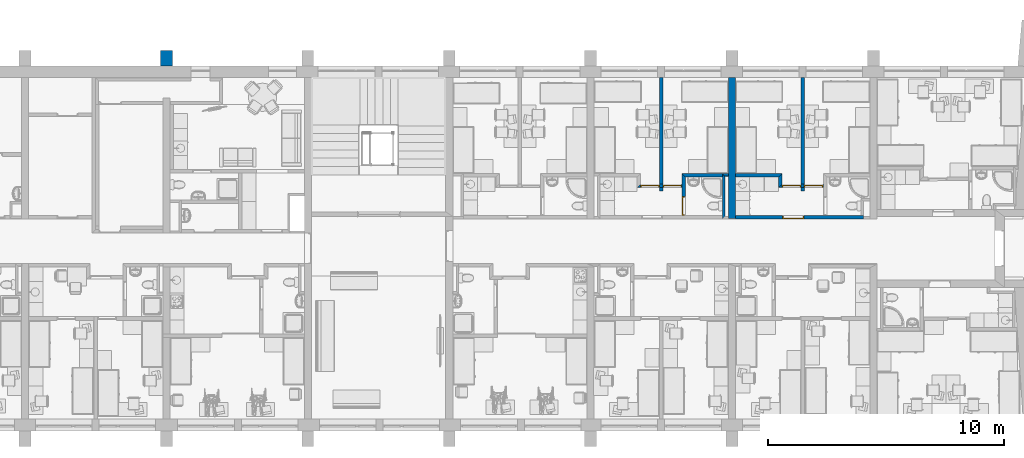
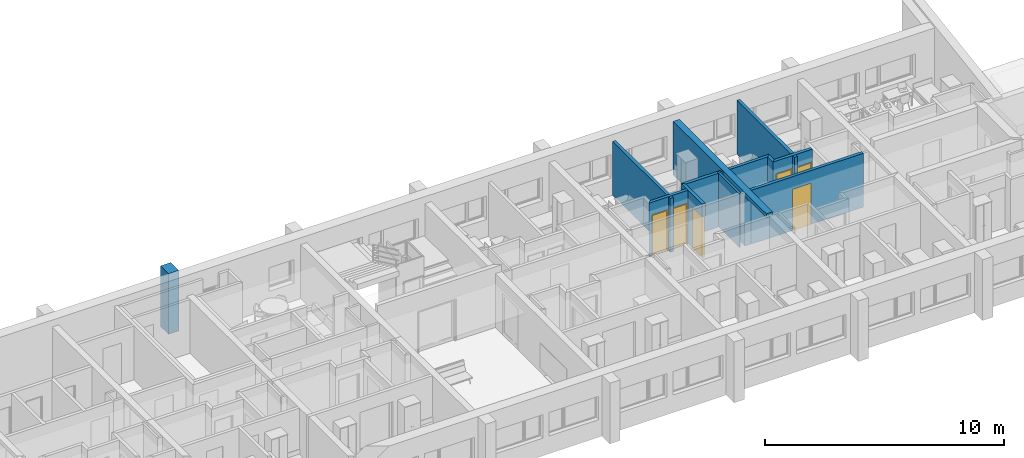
# One storey, part 17 of 172: 13 walls, 6 doors, 7 openings.
"""IFC2X3 building model written with IfcOpenShell, lengths in millimetres."""

from ifc_helpers import new_model, entity, si_unit, converted_unit, money_unit, direction, frame, origin_with_axes, place, context, subcontext, project, spatial, polyline, outline, extrude, faceted_brep, source, transform, mapped, material, material_list, layer, layer_set, layer_usage, type_object, element, fill, save


model = new_model("IFC2X3")

# Units and contexts
model_context = context("Model", 3, precision=1e-05, world=origin_with_axes(), true_north=direction((0.0, 1.0)))
body_context = subcontext(model_context, "Body", "Model", "MODEL_VIEW")
ifc_project = project(units=[si_unit("LENGTHUNIT", "METRE", prefix="MILLI"), si_unit("AREAUNIT", "SQUARE_METRE"), si_unit("VOLUMEUNIT", "CUBIC_METRE"), converted_unit("PLANEANGLEUNIT", "DEGREE", entity("IfcPlaneAngleMeasure", 0.0174532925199), si_unit("PLANEANGLEUNIT", "RADIAN"), dimensions=[0, 0, 0, 0, 0, 0, 0]), si_unit("SOLIDANGLEUNIT", "STERADIAN"), money_unit("USD"), converted_unit("TIMEUNIT", "Year", entity("IfcTimeMeasure", 31556926.0), si_unit("TIMEUNIT", "SECOND"), dimensions=[0, 0, 0, 0, 0, 0, 0]), si_unit("MASSUNIT", "GRAM"), si_unit("THERMODYNAMICTEMPERATUREUNIT", "DEGREE_CELSIUS"), si_unit("LUMINOUSINTENSITYUNIT", "LUMEN")], contexts=[model_context])

# Site, building, storey
site_placement = place(None, origin_with_axes())
site = spatial("IfcSite", under=ifc_project, at=site_placement, Name="Site", CompositionType="ELEMENT")
building_placement = place(site_placement, origin_with_axes())
building = spatial("IfcBuilding", under=site, at=building_placement, Name="Building", CompositionType="ELEMENT")
storey_placement = place(building_placement, frame((0.0, 0.0, 3200.0), z_axis=(0.0, 0.0, 1.0), x_axis=(1.0, 0.0, 0.0)))
storey = spatial("IfcBuildingStorey", under=building, at=storey_placement, Name="3KORRUS", CompositionType="ELEMENT", Elevation=3200.0)

# Wall
ifc_material_1 = material(Name="Olemasolevad seinad tellis, uus viimistlus")
ifc_layer_1 = layer(ifc_material_1, 500.0, ventilated="UNKNOWN")
ifc_layer_set_1 = layer_set([ifc_layer_1], Name="Olemasolevad seinad tellis, uus viimistlus 500")
ifc_layer_usage_1 = layer_usage(ifc_layer_set_1, "AXIS2", "POSITIVE", -100.0)
wall_type_1 = type_object("IfcWallType", Name="Olemasolevad seinad tellis, uus viimistlus 500", PredefinedType="NOTDEFINED")
wall_1_placement = place(storey_placement, frame((-17990.2967033, -4639.6041088, 0.0), z_axis=(0.0, 0.0, 1.0), x_axis=(0.0, 1.0, 0.0)))
element("IfcWallStandardCase", 1, at=wall_1_placement, inside=storey, type_object=wall_type_1, material=ifc_layer_usage_1, Name="VS1", ObjectType="VS1", context=body_context, shape_type="SweptSolid", body=[
    extrude(outline(polyline([(0.0, -100.0), (657.402041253, -100.0), (657.402041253, 400.0), (0.0, 400.0), (0.0, -100.0)])), origin_with_axes(), (0.0, 0.0, 1.0), 3100.0),
])

# Wall, opening, door
ifc_material_2 = material(Name="UmbKipsplaat")
ifc_layer_2 = layer(ifc_material_2, 13.0, ventilated="UNKNOWN")
ifc_layer_3 = layer(ifc_material_2, 13.0, ventilated="UNKNOWN")
ifc_material_3 = material(Name="SOOJUSTUS MINERAALVILL")
ifc_layer_4 = layer(ifc_material_3, 98.0, ventilated="UNKNOWN")
ifc_layer_5 = layer(ifc_material_2, 13.0, ventilated="UNKNOWN")
ifc_layer_6 = layer(ifc_material_2, 13.0, ventilated="UNKNOWN")
ifc_layer_set_2 = layer_set([ifc_layer_2, ifc_layer_3, ifc_layer_4, ifc_layer_5, ifc_layer_6], Name="kipssein150")
ifc_layer_usage_2 = layer_usage(ifc_layer_set_2, "AXIS2", "POSITIVE", 0.0)
wall_type_2 = type_object("IfcWallType", Name="kipssein150 150", PredefinedType="NOTDEFINED")
wall_2_placement = place(storey_placement, frame((3734.70329669, -9367.37850445, 0.0), z_axis=(0.0, 0.0, 1.0), x_axis=(0.0, -1.0, 0.0)))
wall_2 = element("IfcWallStandardCase", 2, at=wall_2_placement, inside=storey, type_object=wall_type_2, material=ifc_layer_usage_2, Name="SS1", ObjectType="SS1", context=body_context, shape_type="SweptSolid", body=[
    extrude(outline(polyline([(-150.0, 0.0), (1619.22560435, 0.0), (1619.22560435, 150.0), (0.0, 150.0), (-150.0, 0.0)])), origin_with_axes(), (0.0, 0.0, 1.0), 2750.0),
])
opening_1_placement = place(wall_2_placement, frame((1219.22560435, 0.0, 0.0), z_axis=(0.0, 0.0, 1.0), x_axis=(1.0, 0.0, 0.0)))
opening_1 = element("IfcOpeningElement", 3, at=opening_1_placement, cuts=wall_2, Name="SU3-3", context=body_context, shape_type="SweptSolid", body=[
    extrude(outline(polyline([(-400.0, -2100.0), (400.0, -2100.0), (400.0, 0.0), (-400.0, 0.0), (-400.0, -2100.0)])), frame((0.0, 150.0, 0.0), z_axis=(0.0, 1.0, 0.0), x_axis=(1.0, 0.0, 0.0)), (0.0, 0.0, -1.0), 450.0),
])
ifc_material_4 = material(Name="Background")
ifc_material_list = material_list([ifc_material_4])
door_style_1 = type_object("IfcDoorStyle", Name="Door 19", ConstructionType="NOTDEFINED", OperationType="SINGLE_SWING_LEFT", ParameterTakesPrecedence=False, Sizeable=False)
shared_shape_1 = source(origin_with_axes(), body_context, "Body", "Brep", [
    faceted_brep([(360.0, -40.0, 0.0), (360.0, -115.0, 0.0), (360.0, -115.0, 2060.0), (360.0, -40.0, 2060.0), (372.0, -40.0, 0.0), (372.0, 0.0, 0.0), (400.0, 0.0, 0.0), (400.0, -115.0, 0.0), (400.0, -115.0, 2060.0), (372.0, -40.0, 2060.0), (400.0, 0.0, 2060.0), (372.0, 0.0, 2060.0)], [[[0, 1, 2, 3]], [[4, 5, 6, 7, 1, 0]], [[2, 1, 7, 8]], [[9, 3, 2, 8, 10, 11]], [[9, 4, 0, 3]], [[11, 5, 4, 9]], [[11, 10, 6, 5]], [[7, 6, 10, 8]]]),
    faceted_brep([(-372.0, -40.0, 2060.0), (-372.0, 0.0, 2060.0), (-400.0, 0.0, 2060.0), (-400.0, -115.0, 2060.0), (-360.0, -115.0, 2060.0), (-360.0, -40.0, 2060.0), (-372.0, -40.0, 0.0), (-372.0, 0.0, 0.0), (-400.0, 0.0, 0.0), (-400.0, -115.0, 0.0), (-360.0, -115.0, 0.0), (-360.0, -40.0, 0.0)], [[[0, 1, 2, 3, 4, 5]], [[0, 6, 7, 1]], [[7, 8, 2, 1]], [[3, 2, 8, 9]], [[4, 3, 9, 10]], [[5, 4, 10, 11]], [[5, 11, 6, 0]], [[6, 11, 10, 9, 8, 7]]]),
    faceted_brep([(372.0, 0.0, 2072.0), (-372.0, 0.0, 2072.0), (-372.0, 0.0, 2060.0), (-400.0, 0.0, 2060.0), (-400.0, 0.0, 2100.0), (400.0, 0.0, 2100.0), (400.0, 0.0, 2060.0), (372.0, 0.0, 2060.0), (372.0, -40.0, 2072.0), (-372.0, -40.0, 2072.0), (-372.0, -40.0, 2060.0), (-360.0, -40.0, 2060.0), (-360.0, -115.0, 2060.0), (-400.0, -115.0, 2060.0), (-400.0, -115.0, 2100.0), (400.0, -115.0, 2100.0), (400.0, -115.0, 2060.0), (372.0, -40.0, 2060.0), (360.0, -115.0, 2060.0), (360.0, -40.0, 2060.0)], [[[0, 1, 2, 3, 4, 5, 6, 7]], [[0, 8, 9, 1]], [[1, 9, 10, 2]], [[10, 11, 12, 13, 3, 2]], [[14, 4, 3, 13]], [[15, 5, 4, 14]], [[16, 6, 5, 15]], [[17, 7, 6, 16, 18, 19]], [[7, 17, 8, 0]], [[10, 9, 8, 17, 19, 11]], [[19, 18, 12, 11]], [[13, 12, 18, 16, 15, 14]]]),
    faceted_brep([(-372.0, 0.0, 0.0), (372.0, 0.0, 0.0), (372.0, -40.0, 0.0), (-372.0, -40.0, 0.0), (-372.0, 0.0, 2072.0), (372.0, 0.0, 2072.0), (372.0, -40.0, 2072.0), (-372.0, -40.0, 2072.0)], [[[0, 1, 2, 3]], [[0, 4, 5, 1]], [[1, 5, 6, 2]], [[3, 2, 6, 7]], [[4, 0, 3, 7]], [[5, 4, 7, 6]]]),
])
door_1_placement = place(opening_1_placement, frame((400.0, 0.0, 0.0), z_axis=(0.0, 0.0, 1.0), x_axis=(-1.0, 0.0, 0.0)))
door_1 = element("IfcDoor", 4, at=door_1_placement, inside=storey, type_object=door_style_1, material=ifc_material_list, Name="SU3-3", ObjectType="WC-uks", OverallHeight=2100.0, OverallWidth=800.0, context=body_context, shape_type="MappedRepresentation", body=[
    mapped(shared_shape_1, transform((400.0, 0.0, 0.0))),
])
fill(opening_1, door_1)

# Wall
ifc_layer_usage_3 = layer_usage(ifc_layer_set_2, "AXIS2", "POSITIVE", 0.0)
wall_3_placement = place(storey_placement, frame((2784.2564771, -5039.6041088, 0.0), z_axis=(0.0, 0.0, 1.0), x_axis=(0.0, -1.0, 0.0)))
element("IfcWallStandardCase", 5, at=wall_3_placement, inside=storey, type_object=wall_type_2, material=ifc_layer_usage_3, Name="SS1", ObjectType="SS1", context=body_context, shape_type="SweptSolid", body=[
    extrude(outline(polyline([(100.0, 0.0), (4917.29002979, 0.0), (4917.29002979, 150.0), (100.0, 150.0), (100.0, 0.0)])), origin_with_axes(), (0.0, 0.0, 1.0), 2750.0),
])

# Wall, openings, doors
ifc_layer_usage_4 = layer_usage(ifc_layer_set_2, "AXIS2", "POSITIVE", 0.0)
wall_4_placement = place(storey_placement, frame((1984.2564771, -9806.89413859, 0.0), z_axis=(0.0, 0.0, 1.0), x_axis=(1.0, 0.0, 0.0)))
wall_4 = element("IfcWallStandardCase", 6, at=wall_4_placement, inside=storey, type_object=wall_type_2, material=ifc_layer_usage_4, Name="SS1", ObjectType="SS1", context=body_context, shape_type="SweptSolid", body=[
    extrude(outline(polyline([(-150.0, 0.0), (1750.44681959, 0.0), (1750.44681959, 150.0), (0.0, 150.0), (-150.0, 0.0)])), origin_with_axes(), (0.0, 0.0, 1.0), 2750.0),
])
opening_2_placement = place(wall_4_placement, frame((1341.45577623, 0.0, 0.0), z_axis=(0.0, 0.0, 1.0), x_axis=(1.0, 0.0, 0.0)))
opening_2 = element("IfcOpeningElement", 7, at=opening_2_placement, cuts=wall_4, Name="SU3-5", context=body_context, shape_type="SweptSolid", body=[
    extrude(outline(polyline([(-400.0, 0.0), (400.0, 0.0), (400.0, 2100.0), (-400.0, 2100.0), (-400.0, 0.0)])), frame((0.0, 150.0, 0.0), z_axis=(0.0, 1.0, 0.0), x_axis=(-1.0, 0.0, 0.0)), (0.0, 0.0, -1.0), 450.0),
])
opening_3_placement = place(wall_4_placement, frame((400.0, 0.0, 0.0), z_axis=(0.0, 0.0, 1.0), x_axis=(1.0, 0.0, 0.0)))
opening_3 = element("IfcOpeningElement", 8, at=opening_3_placement, cuts=wall_4, Name="SU3-4", context=body_context, shape_type="SweptSolid", body=[
    extrude(outline(polyline([(-400.0, 0.0), (400.0, 0.0), (400.0, 2100.0), (-400.0, 2100.0), (-400.0, 0.0)])), frame((0.0, 150.0, 0.0), z_axis=(0.0, -1.0, 0.0), x_axis=(1.0, 0.0, 0.0)), (0.0, 0.0, 1.0), 450.0),
])
door_style_2 = type_object("IfcDoorStyle", Name="Door 19", ConstructionType="NOTDEFINED", OperationType="SINGLE_SWING_LEFT", ParameterTakesPrecedence=False, Sizeable=False)
shared_shape_2 = source(origin_with_axes(), body_context, "Body", "Brep", [
    faceted_brep([(360.0, -75.0, 0.0), (360.0, -150.0, 0.0), (360.0, -150.0, 2060.0), (360.0, -75.0, 2060.0), (372.0, -75.0, 0.0), (372.0, -35.0, 0.0), (400.0, -35.0, 0.0), (400.0, -150.0, 0.0), (400.0, -150.0, 2060.0), (372.0, -75.0, 2060.0), (400.0, -35.0, 2060.0), (372.0, -35.0, 2060.0)], [[[0, 1, 2, 3]], [[4, 5, 6, 7, 1, 0]], [[2, 1, 7, 8]], [[9, 3, 2, 8, 10, 11]], [[9, 4, 0, 3]], [[11, 5, 4, 9]], [[11, 10, 6, 5]], [[7, 6, 10, 8]]]),
    faceted_brep([(-372.0, -75.0, 2060.0), (-372.0, -35.0, 2060.0), (-400.0, -35.0, 2060.0), (-400.0, -150.0, 2060.0), (-360.0, -150.0, 2060.0), (-360.0, -75.0, 2060.0), (-372.0, -75.0, 0.0), (-372.0, -35.0, 0.0), (-400.0, -35.0, 0.0), (-400.0, -150.0, 0.0), (-360.0, -150.0, 0.0), (-360.0, -75.0, 0.0)], [[[0, 1, 2, 3, 4, 5]], [[0, 6, 7, 1]], [[7, 8, 2, 1]], [[3, 2, 8, 9]], [[4, 3, 9, 10]], [[5, 4, 10, 11]], [[5, 11, 6, 0]], [[6, 11, 10, 9, 8, 7]]]),
    faceted_brep([(372.0, -35.0, 2072.0), (-372.0, -35.0, 2072.0), (-372.0, -35.0, 2060.0), (-400.0, -35.0, 2060.0), (-400.0, -35.0, 2100.0), (400.0, -35.0, 2100.0), (400.0, -35.0, 2060.0), (372.0, -35.0, 2060.0), (372.0, -75.0, 2072.0), (-372.0, -75.0, 2072.0), (-372.0, -75.0, 2060.0), (-360.0, -75.0, 2060.0), (-360.0, -150.0, 2060.0), (-400.0, -150.0, 2060.0), (-400.0, -150.0, 2100.0), (400.0, -150.0, 2100.0), (400.0, -150.0, 2060.0), (372.0, -75.0, 2060.0), (360.0, -150.0, 2060.0), (360.0, -75.0, 2060.0)], [[[0, 1, 2, 3, 4, 5, 6, 7]], [[0, 8, 9, 1]], [[1, 9, 10, 2]], [[10, 11, 12, 13, 3, 2]], [[14, 4, 3, 13]], [[15, 5, 4, 14]], [[16, 6, 5, 15]], [[17, 7, 6, 16, 18, 19]], [[7, 17, 8, 0]], [[10, 9, 8, 17, 19, 11]], [[19, 18, 12, 11]], [[13, 12, 18, 16, 15, 14]]]),
    faceted_brep([(-372.0, -35.0, 0.0), (372.0, -35.0, 0.0), (372.0, -75.0, 0.0), (-372.0, -75.0, 0.0), (-372.0, -35.0, 2072.0), (372.0, -35.0, 2072.0), (372.0, -75.0, 2072.0), (-372.0, -75.0, 2072.0)], [[[0, 1, 2, 3]], [[0, 4, 5, 1]], [[1, 5, 6, 2]], [[3, 2, 6, 7]], [[4, 0, 3, 7]], [[5, 4, 7, 6]]]),
])
door_2_placement = place(opening_2_placement, frame((-400.0, 0.0, 0.0), z_axis=(0.0, 0.0, 1.0), x_axis=(1.0, 0.0, 0.0)))
door_2 = element("IfcDoor", 9, at=door_2_placement, inside=storey, type_object=door_style_2, material=ifc_material_list, Name="SU3-5", ObjectType="Toa uks", OverallHeight=2100.0, OverallWidth=800.0, context=body_context, shape_type="MappedRepresentation", body=[
    mapped(shared_shape_2, transform((400.0, 150.0, 0.0))),
])
fill(opening_2, door_2)
door_style_3 = type_object("IfcDoorStyle", Name="Door 19", ConstructionType="NOTDEFINED", OperationType="SINGLE_SWING_RIGHT", ParameterTakesPrecedence=False, Sizeable=False)
shared_shape_3 = source(origin_with_axes(), body_context, "Body", "Brep", [
    faceted_brep([(-360.0, -75.0, 0.0), (-360.0, -75.0, 2060.0), (-360.0, -150.0, 2060.0), (-360.0, -150.0, 0.0), (-372.0, -75.0, 2060.0), (-372.0, -75.0, 0.0), (-372.0, -35.0, 2060.0), (-400.0, -35.0, 2060.0), (-400.0, -150.0, 2060.0), (-400.0, -150.0, 0.0), (-400.0, -35.0, 0.0), (-372.0, -35.0, 0.0)], [[[0, 1, 2, 3]], [[4, 1, 0, 5]], [[4, 6, 7, 8, 2, 1]], [[2, 8, 9, 3]], [[5, 0, 3, 9, 10, 11]], [[6, 4, 5, 11]], [[6, 11, 10, 7]], [[9, 8, 7, 10]]]),
    faceted_brep([(372.0, -75.0, 2060.0), (360.0, -75.0, 2060.0), (360.0, -150.0, 2060.0), (400.0, -150.0, 2060.0), (400.0, -35.0, 2060.0), (372.0, -35.0, 2060.0), (372.0, -75.0, 0.0), (360.0, -75.0, 0.0), (360.0, -150.0, 0.0), (400.0, -150.0, 0.0), (400.0, -35.0, 0.0), (372.0, -35.0, 0.0)], [[[0, 1, 2, 3, 4, 5]], [[1, 0, 6, 7]], [[1, 7, 8, 2]], [[2, 8, 9, 3]], [[3, 9, 10, 4]], [[11, 5, 4, 10]], [[0, 5, 11, 6]], [[6, 11, 10, 9, 8, 7]]]),
    faceted_brep([(-372.0, -35.0, 2072.0), (-372.0, -35.0, 2060.0), (-400.0, -35.0, 2060.0), (-400.0, -35.0, 2100.0), (400.0, -35.0, 2100.0), (400.0, -35.0, 2060.0), (372.0, -35.0, 2060.0), (372.0, -35.0, 2072.0), (-372.0, -75.0, 2072.0), (-372.0, -75.0, 2060.0), (-360.0, -75.0, 2060.0), (-360.0, -150.0, 2060.0), (-400.0, -150.0, 2060.0), (-400.0, -150.0, 2100.0), (400.0, -150.0, 2100.0), (400.0, -150.0, 2060.0), (372.0, -75.0, 2060.0), (360.0, -150.0, 2060.0), (360.0, -75.0, 2060.0), (372.0, -75.0, 2072.0)], [[[0, 1, 2, 3, 4, 5, 6, 7]], [[1, 0, 8, 9]], [[9, 10, 11, 12, 2, 1]], [[12, 13, 3, 2]], [[13, 14, 4, 3]], [[14, 15, 5, 4]], [[16, 6, 5, 15, 17, 18]], [[7, 6, 16, 19]], [[0, 7, 19, 8]], [[16, 18, 10, 9, 8, 19]], [[10, 18, 17, 11]], [[15, 14, 13, 12, 11, 17]]]),
    faceted_brep([(372.0, -35.0, 0.0), (372.0, -75.0, 0.0), (-372.0, -75.0, 0.0), (-372.0, -35.0, 0.0), (372.0, -35.0, 2072.0), (372.0, -75.0, 2072.0), (-372.0, -75.0, 2072.0), (-372.0, -35.0, 2072.0)], [[[0, 1, 2, 3]], [[4, 5, 1, 0]], [[1, 5, 6, 2]], [[3, 2, 6, 7]], [[0, 3, 7, 4]], [[7, 6, 5, 4]]]),
])
door_3_placement = place(opening_3_placement, frame((-400.0, 0.0, 0.0), z_axis=(0.0, 0.0, 1.0), x_axis=(1.0, 0.0, 0.0)))
door_3 = element("IfcDoor", 10, at=door_3_placement, inside=storey, type_object=door_style_3, material=ifc_material_list, Name="SU3-4", ObjectType="Toa uks", OverallHeight=2100.0, OverallWidth=800.0, context=body_context, shape_type="MappedRepresentation", body=[
    mapped(shared_shape_3, transform((400.0, 150.0, 0.0))),
])
fill(opening_3, door_3)

# Wall
ifc_layer_usage_5 = layer_usage(ifc_layer_set_2, "AXIS2", "POSITIVE", 0.0)
wall_5_placement = place(storey_placement, frame((3734.70329669, -9367.37850445, 0.0), z_axis=(0.0, 0.0, 1.0), x_axis=(1.0, 0.0, 0.0)))
element("IfcWallStandardCase", 11, at=wall_5_placement, inside=storey, type_object=wall_type_2, material=ifc_layer_usage_5, Name="SS1", ObjectType="SS1", context=body_context, shape_type="SweptSolid", body=[
    extrude(outline(polyline([(150.0, 0.0), (1725.0, 0.0), (1725.0, 150.0), (0.0, 150.0), (150.0, 0.0)])), origin_with_axes(), (0.0, 0.0, 1.0), 2750.0),
])

# Wall, opening, door
ifc_layer_usage_6 = layer_usage(ifc_layer_set_2, "AXIS2", "POSITIVE", 0.0)
wall_6_placement = place(storey_placement, frame((6009.70329669, -11136.6041088, 0.0), z_axis=(0.0, 0.0, 1.0), x_axis=(1.0, 0.0, 0.0)))
wall_6 = element("IfcWallStandardCase", 12, at=wall_6_placement, inside=storey, type_object=wall_type_2, material=ifc_layer_usage_6, Name="SS1", ObjectType="SS1", context=body_context, shape_type="SweptSolid", body=[
    extrude(outline(polyline([(0.0, 0.0), (5427.92293803, 0.0), (5427.92293803, 150.0), (0.0, 150.0), (0.0, 0.0)])), origin_with_axes(), (0.0, 0.0, 1.0), 2750.0),
])
opening_4_placement = place(wall_6_placement, frame((2449.55318041, 0.0, 0.0), z_axis=(0.0, 0.0, 1.0), x_axis=(1.0, 0.0, 0.0)))
opening_4 = element("IfcOpeningElement", 13, at=opening_4_placement, cuts=wall_6, Name="SU2-6", context=body_context, shape_type="SweptSolid", body=[
    extrude(outline(polyline([(-450.0, -2100.0), (450.0, -2100.0), (450.0, 0.0), (-450.0, 0.0), (-450.0, -2100.0)])), frame((0.0, 150.0, 0.0), z_axis=(0.0, 1.0, 0.0), x_axis=(1.0, 0.0, 0.0)), (0.0, 0.0, -1.0), 450.0),
])
shared_shape_4 = source(origin_with_axes(), body_context, "Body", "Brep", [
    faceted_brep([(410.0, -40.0, 0.0), (410.0, -115.0, 0.0), (410.0, -115.0, 2060.0), (410.0, -40.0, 2060.0), (422.0, -40.0, 0.0), (422.0, 0.0, 0.0), (450.0, 0.0, 0.0), (450.0, -115.0, 0.0), (450.0, -115.0, 2060.0), (422.0, -40.0, 2060.0), (450.0, 0.0, 2060.0), (422.0, 0.0, 2060.0)], [[[0, 1, 2, 3]], [[4, 5, 6, 7, 1, 0]], [[2, 1, 7, 8]], [[9, 3, 2, 8, 10, 11]], [[9, 4, 0, 3]], [[11, 5, 4, 9]], [[11, 10, 6, 5]], [[7, 6, 10, 8]]]),
    faceted_brep([(-422.0, -40.0, 2060.0), (-422.0, 0.0, 2060.0), (-450.0, 0.0, 2060.0), (-450.0, -115.0, 2060.0), (-410.0, -115.0, 2060.0), (-410.0, -40.0, 2060.0), (-422.0, -40.0, 0.0), (-422.0, 0.0, 0.0), (-450.0, 0.0, 0.0), (-450.0, -115.0, 0.0), (-410.0, -115.0, 0.0), (-410.0, -40.0, 0.0)], [[[0, 1, 2, 3, 4, 5]], [[0, 6, 7, 1]], [[7, 8, 2, 1]], [[3, 2, 8, 9]], [[4, 3, 9, 10]], [[5, 4, 10, 11]], [[5, 11, 6, 0]], [[6, 11, 10, 9, 8, 7]]]),
    faceted_brep([(422.0, 0.0, 2072.0), (-422.0, 0.0, 2072.0), (-422.0, 0.0, 2060.0), (-450.0, 0.0, 2060.0), (-450.0, 0.0, 2100.0), (450.0, 0.0, 2100.0), (450.0, 0.0, 2060.0), (422.0, 0.0, 2060.0), (422.0, -40.0, 2072.0), (-422.0, -40.0, 2072.0), (-422.0, -40.0, 2060.0), (-410.0, -40.0, 2060.0), (-410.0, -115.0, 2060.0), (-450.0, -115.0, 2060.0), (-450.0, -115.0, 2100.0), (450.0, -115.0, 2100.0), (450.0, -115.0, 2060.0), (422.0, -40.0, 2060.0), (410.0, -115.0, 2060.0), (410.0, -40.0, 2060.0)], [[[0, 1, 2, 3, 4, 5, 6, 7]], [[0, 8, 9, 1]], [[1, 9, 10, 2]], [[10, 11, 12, 13, 3, 2]], [[14, 4, 3, 13]], [[15, 5, 4, 14]], [[16, 6, 5, 15]], [[17, 7, 6, 16, 18, 19]], [[7, 17, 8, 0]], [[10, 9, 8, 17, 19, 11]], [[19, 18, 12, 11]], [[13, 12, 18, 16, 15, 14]]]),
    faceted_brep([(-422.0, 0.0, 0.0), (422.0, 0.0, 0.0), (422.0, -40.0, 0.0), (-422.0, -40.0, 0.0), (-422.0, 0.0, 2072.0), (422.0, 0.0, 2072.0), (422.0, -40.0, 2072.0), (-422.0, -40.0, 2072.0)], [[[0, 1, 2, 3]], [[0, 4, 5, 1]], [[1, 5, 6, 2]], [[3, 2, 6, 7]], [[4, 0, 3, 7]], [[5, 4, 7, 6]]]),
])
door_4_placement = place(opening_4_placement, frame((450.0, 0.0, 0.0), z_axis=(0.0, 0.0, 1.0), x_axis=(-1.0, 0.0, 0.0)))
door_4 = element("IfcDoor", 14, at=door_4_placement, inside=storey, type_object=door_style_1, material=ifc_material_list, Name="SU2-6", ObjectType="Korteri välisuks", OverallHeight=2100.0, OverallWidth=900.0, context=body_context, shape_type="MappedRepresentation", body=[
    mapped(shared_shape_4, transform((450.0, 0.0, 0.0))),
])
fill(opening_4, door_4)

# Wall
ifc_layer_usage_7 = layer_usage(ifc_layer_set_2, "AXIS2", "POSITIVE", 0.0)
wall_7_placement = place(storey_placement, frame((8784.2564771, -5039.6041088, 0.0), z_axis=(0.0, 0.0, 1.0), x_axis=(0.0, -1.0, 0.0)))
element("IfcWallStandardCase", 15, at=wall_7_placement, inside=storey, type_object=wall_type_2, material=ifc_layer_usage_7, Name="SS1", ObjectType="SS1", context=body_context, shape_type="SweptSolid", body=[
    extrude(outline(polyline([(100.0, 0.0), (4917.29002979, 0.0), (4917.29002979, 150.0), (100.0, 150.0), (100.0, 0.0)])), origin_with_axes(), (0.0, 0.0, 1.0), 2750.0),
])

# Wall, openings, doors
ifc_layer_usage_8 = layer_usage(ifc_layer_set_2, "AXIS2", "POSITIVE", 0.0)
wall_8_placement = place(storey_placement, frame((7984.2564771, -9806.89413859, 0.0), z_axis=(0.0, 0.0, 1.0), x_axis=(1.0, 0.0, 0.0)))
wall_8 = element("IfcWallStandardCase", 16, at=wall_8_placement, inside=storey, type_object=wall_type_2, material=ifc_layer_usage_8, Name="SS1", ObjectType="SS1", context=body_context, shape_type="SweptSolid", body=[
    extrude(outline(polyline([(-150.0, 0.0), (1750.44681959, 0.0), (1750.44681959, 150.0), (0.0, 150.0), (-150.0, 0.0)])), origin_with_axes(), (0.0, 0.0, 1.0), 2750.0),
])
opening_5_placement = place(wall_8_placement, frame((1341.45577623, 0.0, 0.0), z_axis=(0.0, 0.0, 1.0), x_axis=(1.0, 0.0, 0.0)))
opening_5 = element("IfcOpeningElement", 17, at=opening_5_placement, cuts=wall_8, Name="SU3-5", context=body_context, shape_type="SweptSolid", body=[
    extrude(outline(polyline([(-400.0, 0.0), (400.0, 0.0), (400.0, 2100.0), (-400.0, 2100.0), (-400.0, 0.0)])), frame((0.0, 150.0, 0.0), z_axis=(0.0, 1.0, 0.0), x_axis=(-1.0, 0.0, 0.0)), (0.0, 0.0, -1.0), 450.0),
])
opening_6_placement = place(wall_8_placement, frame((400.0, 0.0, 0.0), z_axis=(0.0, 0.0, 1.0), x_axis=(1.0, 0.0, 0.0)))
opening_6 = element("IfcOpeningElement", 18, at=opening_6_placement, cuts=wall_8, Name="SU3-4", context=body_context, shape_type="SweptSolid", body=[
    extrude(outline(polyline([(-400.0, 0.0), (400.0, 0.0), (400.0, 2100.0), (-400.0, 2100.0), (-400.0, 0.0)])), frame((0.0, 150.0, 0.0), z_axis=(0.0, -1.0, 0.0), x_axis=(1.0, 0.0, 0.0)), (0.0, 0.0, 1.0), 450.0),
])
door_5_placement = place(opening_5_placement, frame((-400.0, 0.0, 0.0), z_axis=(0.0, 0.0, 1.0), x_axis=(1.0, 0.0, 0.0)))
door_5 = element("IfcDoor", 19, at=door_5_placement, inside=storey, type_object=door_style_2, material=ifc_material_list, Name="SU3-5", ObjectType="Toa uks", OverallHeight=2100.0, OverallWidth=800.0, context=body_context, shape_type="MappedRepresentation", body=[
    mapped(shared_shape_2, transform((400.0, 150.0, 0.0))),
])
fill(opening_5, door_5)
door_6_placement = place(opening_6_placement, frame((-400.0, 0.0, 0.0), z_axis=(0.0, 0.0, 1.0), x_axis=(1.0, 0.0, 0.0)))
door_6 = element("IfcDoor", 20, at=door_6_placement, inside=storey, type_object=door_style_3, material=ifc_material_list, Name="SU3-4", ObjectType="Toa uks", OverallHeight=2100.0, OverallWidth=800.0, context=body_context, shape_type="MappedRepresentation", body=[
    mapped(shared_shape_3, transform((400.0, 150.0, 0.0))),
])
fill(opening_6, door_6)

# Walls
ifc_layer_usage_9 = layer_usage(ifc_layer_set_2, "AXIS2", "POSITIVE", -150.0)
wall_9_placement = place(storey_placement, frame((7984.2564771, -9366.37850445, 0.0), z_axis=(0.0, 0.0, 1.0), x_axis=(0.0, -1.0, 0.0)))
element("IfcWallStandardCase", 21, at=wall_9_placement, inside=storey, type_object=wall_type_2, material=ifc_layer_usage_9, Name="SS1", ObjectType="SS1", context=body_context, shape_type="SweptSolid", body=[
    extrude(outline(polyline([(0.0, -150.0), (440.51563414, -150.0), (290.51563414, 0.0), (-150.0, 0.0), (0.0, -150.0)])), origin_with_axes(), (0.0, 0.0, 1.0), 2750.0),
])
ifc_layer_usage_10 = layer_usage(ifc_layer_set_2, "AXIS2", "POSITIVE", -150.0)
wall_10_placement = place(storey_placement, frame((7984.2564771, -9366.37850445, 0.0), z_axis=(0.0, 0.0, 1.0), x_axis=(-1.0, 0.0, 0.0)))
element("IfcWallStandardCase", 22, at=wall_10_placement, inside=storey, type_object=wall_type_2, material=ifc_layer_usage_10, Name="SS1", ObjectType="SS1", context=body_context, shape_type="SweptSolid", body=[
    extrude(outline(polyline([(0.0, -150.0), (1974.55318041, -150.0), (1974.55318041, 0.0), (150.0, 0.0), (0.0, -150.0)])), origin_with_axes(), (0.0, 0.0, 1.0), 2750.0),
])

# Wall, opening
ifc_material_5 = material(Name="Olemasolevad seinad tellis, uus viimistlus")
ifc_layer_7 = layer(ifc_material_5, 300.0, ventilated="UNKNOWN")
ifc_layer_set_3 = layer_set([ifc_layer_7], Name="Olemasolevad seinad tellis, uus viimistlus  300")
ifc_layer_usage_11 = layer_usage(ifc_layer_set_3, "AXIS2", "POSITIVE", 0.0)
wall_type_3 = type_object("IfcWallType", Name="Olemasolevad seinad tellis, uus viimistlus  300", PredefinedType="NOTDEFINED")
wall_11_placement = place(storey_placement, frame((6009.70329669, -12939.3705726, 0.0), z_axis=(0.0, 0.0, 1.0), x_axis=(0.0, 1.0, 0.0)))
wall_11 = element("IfcWallStandardCase", 23, at=wall_11_placement, inside=storey, type_object=wall_type_3, material=ifc_layer_usage_11, Name="KS1", ObjectType="KS1", context=body_context, shape_type="SweptSolid", body=[
    extrude(outline(polyline([(0.0, 0.0), (7799.7664638, 0.0), (7799.7664638, 300.0), (0.0, 300.0), (0.0, 0.0)])), origin_with_axes(), (0.0, 0.0, 1.0), 2750.0),
])
opening_7_placement = place(wall_11_placement, frame((907.883231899, 0.0, 0.0), z_axis=(0.0, 0.0, 1.0), x_axis=(1.0, 0.0, 0.0)))
element("IfcOpeningElement", 24, at=opening_7_placement, cuts=wall_11, Name="DOO - 001", context=body_context, shape_type="SweptSolid", body=[
    extrude(outline(polyline([(-907.883, 2550.0), (-907.883, 0.0), (907.883, 0.0), (907.883, 2550.0), (-907.883, 2550.0)])), frame((0.0, 0.0, 0.0), z_axis=(0.0, -1.0, 0.0), x_axis=(1.0, 0.0, 0.0)), (0.0, 0.0, 1.0), 300.0),
    extrude(outline(polyline([(-907.883, 0.0), (-907.883, -2550.0), (907.883, -2550.0), (907.883, 0.0), (-907.883, 0.0)])), frame((0.0, 0.0, 0.0), z_axis=(0.0, 1.0, 0.0), x_axis=(1.0, 0.0, 0.0)), (0.0, 0.0, 1.0), 300.0),
])

# Walls
ifc_material_6 = material(Name="krohv")
ifc_layer_8 = layer(ifc_material_6, 2.0, ventilated="UNKNOWN")
ifc_layer_9 = layer(ifc_material_6, 10.0, ventilated="UNKNOWN")
ifc_material_7 = material(Name="Kergplokk")
ifc_layer_10 = layer(ifc_material_7, 76.0, ventilated="UNKNOWN")
ifc_layer_11 = layer(ifc_material_6, 10.0, ventilated="UNKNOWN")
ifc_layer_12 = layer(ifc_material_6, 2.0, ventilated="UNKNOWN")
ifc_layer_set_4 = layer_set([ifc_layer_8, ifc_layer_9, ifc_layer_10, ifc_layer_11, ifc_layer_12], Name="Kergplokk Bauroc 100")
ifc_layer_usage_12 = layer_usage(ifc_layer_set_4, "AXIS2", "POSITIVE", -100.0)
wall_type_4 = type_object("IfcWallType", Name="Kergplokk Bauroc 100 100", PredefinedType="NOTDEFINED")
wall_12_placement = place(storey_placement, frame((5559.70329669, -9217.37850445, 0.0), z_axis=(0.0, 0.0, 1.0), x_axis=(1.0, 0.0, 0.0)))
element("IfcWallStandardCase", 25, at=wall_12_placement, inside=storey, type_object=wall_type_4, material=ifc_layer_usage_12, Name="SS2", ObjectType="SAHTISEIN", context=body_context, shape_type="SweptSolid", body=[
    extrude(outline(polyline([(0.0, -100.0), (150.0, -100.0), (150.0, 0.0), (-100.0, 0.0), (0.0, -100.0)])), origin_with_axes(), (0.0, 0.0, 1.0), 2750.0),
])
ifc_layer_usage_13 = layer_usage(ifc_layer_set_4, "AXIS2", "POSITIVE", -100.0)
wall_13_placement = place(storey_placement, frame((5559.70329669, -9217.37850445, 0.0), z_axis=(0.0, 0.0, 1.0), x_axis=(0.0, -1.0, 0.0)))
element("IfcWallStandardCase", 26, at=wall_13_placement, inside=storey, type_object=wall_type_4, material=ifc_layer_usage_13, Name="SS2", ObjectType="SAHTISEIN", context=body_context, shape_type="SweptSolid", body=[
    extrude(outline(polyline([(0.0, -100.0), (1919.22564905, -100.0), (1819.22564905, 0.0), (100.0, 0.0), (0.0, -100.0)])), origin_with_axes(), (0.0, 0.0, 1.0), 2750.0),
])

save(model, "model.ifc")
